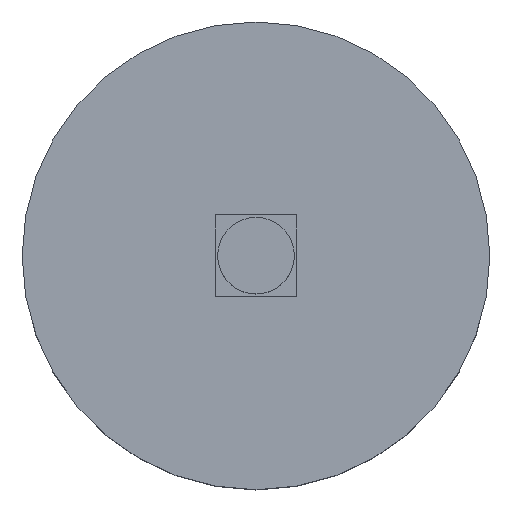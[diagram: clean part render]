
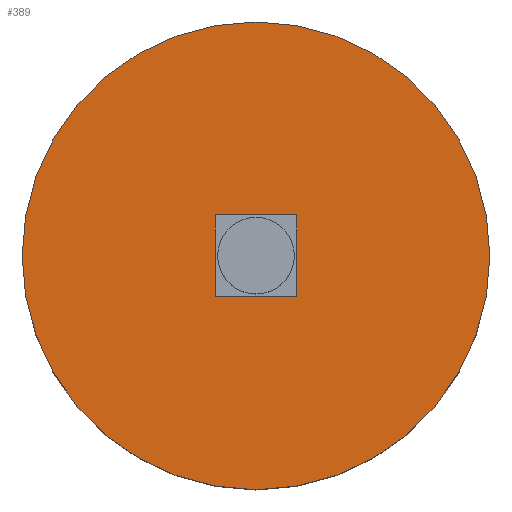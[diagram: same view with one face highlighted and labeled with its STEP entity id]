
A CAD part, top view. The second image highlights one B-rep face of the part: STEP entity #389.
In plain terms, the highlighted planar face has unit normal (0, 0, 1).
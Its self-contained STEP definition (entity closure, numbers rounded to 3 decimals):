
#41 = CARTESIAN_POINT ( 'NONE',  ( -7., 7., 31. ) ) ;
#51 = VERTEX_POINT ( 'NONE', #312 ) ;
#55 = CIRCLE ( 'NONE', #68, 40. ) ;
#68 = AXIS2_PLACEMENT_3D ( 'NONE', #163, #73, #291 ) ;
#73 = DIRECTION ( 'NONE',  ( 0., 0., 1. ) ) ;
#76 = DIRECTION ( 'NONE',  ( 0., 1., 0. ) ) ;
#77 = VERTEX_POINT ( 'NONE', #79 ) ;
#79 = CARTESIAN_POINT ( 'NONE',  ( -7., -7., 31. ) ) ;
#85 = ORIENTED_EDGE ( 'NONE', *, *, #374, .F. ) ;
#87 = VERTEX_POINT ( 'NONE', #400 ) ;
#90 = CARTESIAN_POINT ( 'NONE',  ( -7., 7., 31. ) ) ;
#92 = AXIS2_PLACEMENT_3D ( 'NONE', #406, #321, #224 ) ;
#93 = CARTESIAN_POINT ( 'NONE',  ( -7., -7., 31. ) ) ;
#95 = VECTOR ( 'NONE', #191, 1000. ) ;
#107 = EDGE_LOOP ( 'NONE', ( #333, #359 ) ) ;
#117 = FACE_OUTER_BOUND ( 'NONE', #107, .T. ) ;
#127 = LINE ( 'NONE', #93, #95 ) ;
#152 = LINE ( 'NONE', #41, #314 ) ;
#153 = EDGE_LOOP ( 'NONE', ( #196, #338, #298, #85 ) ) ;
#163 = CARTESIAN_POINT ( 'NONE',  ( 0., 0., 31. ) ) ;
#173 = EDGE_CURVE ( 'NONE', #77, #227, #127, .T. ) ;
#175 = VERTEX_POINT ( 'NONE', #409 ) ;
#181 = EDGE_CURVE ( 'NONE', #51, #87, #278, .T. ) ;
#184 = CARTESIAN_POINT ( 'NONE',  ( 0., 0., 31. ) ) ;
#191 = DIRECTION ( 'NONE',  ( 1., 0., 0. ) ) ;
#196 = ORIENTED_EDGE ( 'NONE', *, *, #383, .F. ) ;
#211 = DIRECTION ( 'NONE',  ( 1., 0., 0. ) ) ;
#216 = EDGE_CURVE ( 'NONE', #175, #77, #223, .T. ) ;
#223 = LINE ( 'NONE', #90, #329 ) ;
#224 = DIRECTION ( 'NONE',  ( 1., 0., 0. ) ) ;
#227 = VERTEX_POINT ( 'NONE', #381 ) ;
#238 = DIRECTION ( 'NONE',  ( -1., 0., 0. ) ) ;
#241 = LINE ( 'NONE', #363, #347 ) ;
#273 = AXIS2_PLACEMENT_3D ( 'NONE', #184, #279, #211 ) ;
#278 = CIRCLE ( 'NONE', #92, 40. ) ;
#279 = DIRECTION ( 'NONE',  ( 0., 0., 1. ) ) ;
#291 = DIRECTION ( 'NONE',  ( 1., 0., 0. ) ) ;
#298 = ORIENTED_EDGE ( 'NONE', *, *, #216, .F. ) ;
#304 = VERTEX_POINT ( 'NONE', #360 ) ;
#308 = FACE_BOUND ( 'NONE', #153, .T. ) ;
#310 = EDGE_CURVE ( 'NONE', #87, #51, #55, .T. ) ;
#312 = CARTESIAN_POINT ( 'NONE',  ( 40., 0., 31. ) ) ;
#314 = VECTOR ( 'NONE', #238, 1000. ) ;
#321 = DIRECTION ( 'NONE',  ( 0., 0., 1. ) ) ;
#329 = VECTOR ( 'NONE', #352, 1000. ) ;
#333 = ORIENTED_EDGE ( 'NONE', *, *, #310, .T. ) ;
#335 = PLANE ( 'NONE',  #273 ) ;
#338 = ORIENTED_EDGE ( 'NONE', *, *, #173, .F. ) ;
#347 = VECTOR ( 'NONE', #76, 1000. ) ;
#352 = DIRECTION ( 'NONE',  ( 0., -1., 0. ) ) ;
#359 = ORIENTED_EDGE ( 'NONE', *, *, #181, .T. ) ;
#360 = CARTESIAN_POINT ( 'NONE',  ( 7., 7., 31. ) ) ;
#363 = CARTESIAN_POINT ( 'NONE',  ( 7., 7., 31. ) ) ;
#374 = EDGE_CURVE ( 'NONE', #304, #175, #152, .T. ) ;
#381 = CARTESIAN_POINT ( 'NONE',  ( 7., -7., 31. ) ) ;
#383 = EDGE_CURVE ( 'NONE', #227, #304, #241, .T. ) ;
#389 = ADVANCED_FACE ( 'NONE', ( #308, #117 ), #335, .T. ) ;
#400 = CARTESIAN_POINT ( 'NONE',  ( -40., 0., 31. ) ) ;
#406 = CARTESIAN_POINT ( 'NONE',  ( 0., 0., 31. ) ) ;
#409 = CARTESIAN_POINT ( 'NONE',  ( -7., 7., 31. ) ) ;
